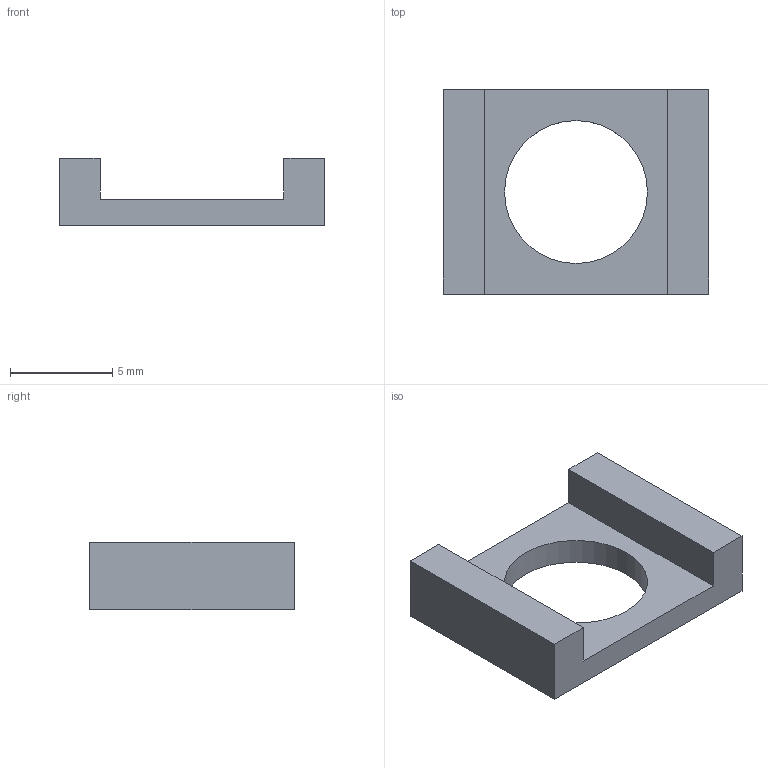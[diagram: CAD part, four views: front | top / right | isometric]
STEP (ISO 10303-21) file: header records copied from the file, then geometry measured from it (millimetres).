
FILE_DESCRIPTION(/* description */ ('Unknown'),/* implementation_level */ '2;1');
FILE_NAME(/* name */ 'INP06',/* time_stamp */ '2026-09-29T09:35:28+08:00',/* author */ ('Unknown'),/* organization */ ('Unknown'),/* preprocessor_version */ 'ST-DEVELOPER v16.7',/* originating_system */ 'DEX',/* authorisation */ $);
FILE_SCHEMA (('AUTOMOTIVE_DESIGN {1 0 10303 214 3 1 1}'));
Length unit declared in the file: millimetre
Products named in the file (1): INP06
Bounding box: 13 x 10 x 3.3 mm (x, y, z)
Volume: 199 mm3; surface area: 367.4 mm2
Topology: 1 solids, 1 shells, 11 faces, 28 edges, 19 vertices
Faces by surface type: plane 10, cylinder 1
Full cylindrical faces by diameter (mm): 7 x1
Entity records: 352 total; most frequent: CARTESIAN_POINT 56, ORIENTED_EDGE 52, DIRECTION 52, EDGE_CURVE 26, LINE 24, VECTOR 24, VERTEX_POINT 18, EDGE_LOOP 14
